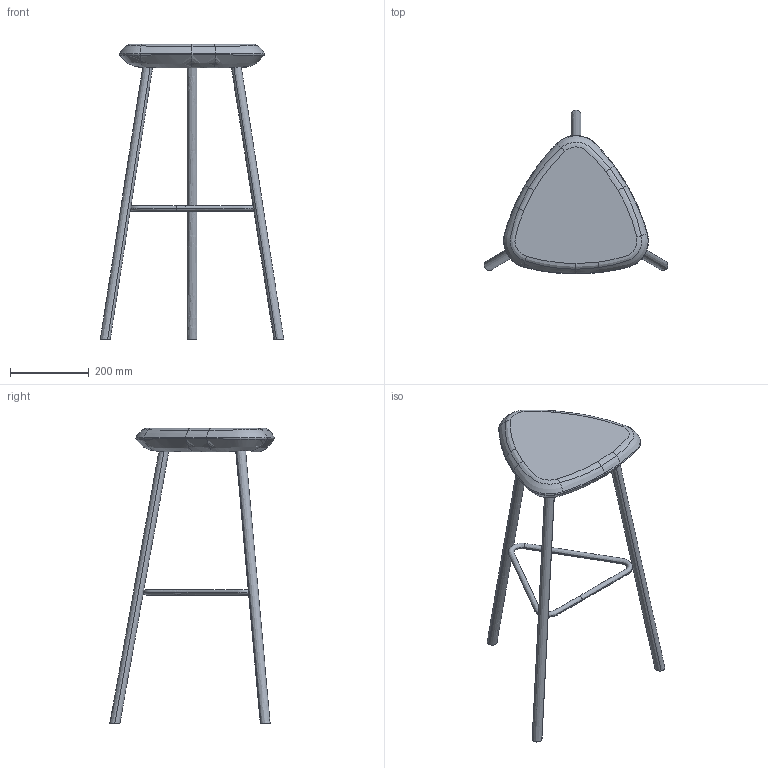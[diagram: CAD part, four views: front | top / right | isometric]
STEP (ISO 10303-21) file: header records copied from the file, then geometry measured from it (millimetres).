
FILE_DESCRIPTION(/* description */ (''),/* implementation_level */ '2;1');
FILE_NAME(/* name */ 'Pick base metallo h75',/* time_stamp */ '2016-11-10T12:14:30+01:00',/* author */ (''),/* organization */ (''),/* preprocessor_version */ 'ST-DEVELOPER v10',/* originating_system */ '',/* authorisation */ '');
FILE_SCHEMA (('CONFIG_CONTROL_DESIGN'));
Length unit declared in the file: millimetre
Products named in the file (1): 1
Bounding box: 465.56 x 416.68 x 749 mm (x, y, z)
Volume: 5102159.3 mm3; surface area: 535027.6 mm2
Topology: 6 solids, 6 shells, 75 faces, 155 edges, 90 vertices
Faces by surface type: bspline 64, plane 11
Entity records: 24764 total; most frequent: CARTESIAN_POINT 23792, ORIENTED_EDGE 310, EDGE_CURVE 155, VERTEX_POINT 90, ADVANCED_FACE 75, FACE_OUTER_BOUND 75, EDGE_LOOP 75, B_SPLINE_CURVE_WITH_KNOTS 50
